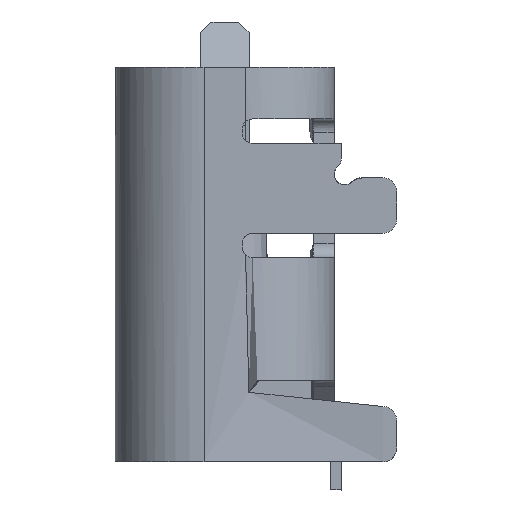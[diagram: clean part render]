
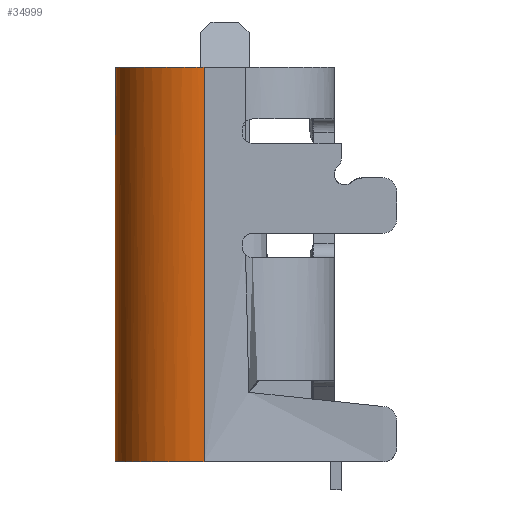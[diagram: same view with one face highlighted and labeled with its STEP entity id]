
A CAD part, left-side view. The second image highlights one B-rep face of the part: STEP entity #34999.
In plain terms, the highlighted free-form (B-spline) face has degree [1, 3] with [2, 4] control points.
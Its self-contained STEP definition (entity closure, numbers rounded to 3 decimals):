
#870 = EDGE_CURVE ( 'NONE', #1981, #31328, #15060, .T. ) ;
#1739 = CARTESIAN_POINT ( 'NONE',  ( 61.445, 1.25, -112.35 ) ) ;
#1981 = VERTEX_POINT ( 'NONE', #23872 ) ;
#2007 = CARTESIAN_POINT ( 'NONE',  ( 61.445, 2., -106.65 ) ) ;
#2282 = CARTESIAN_POINT ( 'NONE',  ( 62.39, 2.497, -106.65 ) ) ;
#2545 = EDGE_LOOP ( 'NONE', ( #20544, #53500, #59929, #29400 ) ) ;
#3932 = EDGE_CURVE ( 'NONE', #23954, #11928, #41296, .T. ) ;
#5102 = EDGE_CURVE ( 'NONE', #31328, #23954, #41783, .T. ) ;
#6470 = CARTESIAN_POINT ( 'NONE',  ( 62.725, 2.53, -106.65 ) ) ;
#9364 = CARTESIAN_POINT ( 'NONE',  ( 61.445, 1.25, -112.35 ) ) ;
#11875 = CARTESIAN_POINT ( 'NONE',  ( 62.725, 2.53, -112.35 ) ) ;
#11928 = VERTEX_POINT ( 'NONE', #51815 ) ;
#13207 = CARTESIAN_POINT ( 'NONE',  ( 61.445, 2., -112.35 ) ) ;
#13825 =( BOUNDED_SURFACE ( )  B_SPLINE_SURFACE ( 1, 3, ( 
 ( #36972, #37594, #13207, #26395 ),
 ( #46927, #45966, #2007, #21571 ) ),
 .UNSPECIFIED., .F., .F., .F. ) 
 B_SPLINE_SURFACE_WITH_KNOTS ( ( 2, 2 ),
 ( 4, 4 ),
 ( 0.019, 0.981 ),
 ( 0., 1. ),
 .UNSPECIFIED. ) 
 GEOMETRIC_REPRESENTATION_ITEM ( )  RATIONAL_B_SPLINE_SURFACE ( (
 ( 1., 0.805, 0.805, 1.),
 ( 1., 0.805, 0.805, 1.) ) ) 
 REPRESENTATION_ITEM ( '' )  SURFACE ( )  );
#15060 = B_SPLINE_CURVE_WITH_KNOTS ( 'NONE', 1,
 ( #43366, #9364 ),
 .UNSPECIFIED., .F., .F.,
 ( 2, 2 ),
 ( 0., 1. ),
 .UNSPECIFIED. ) ;
#16068 = CARTESIAN_POINT ( 'NONE',  ( 61.445, 1.418, -106.65 ) ) ;
#16712 = CARTESIAN_POINT ( 'NONE',  ( 61.607, 1.895, -106.65 ) ) ;
#17387 = FACE_OUTER_BOUND ( 'NONE', #2545, .T. ) ;
#17954 = CARTESIAN_POINT ( 'NONE',  ( 61.939, 2.274, -112.35 ) ) ;
#20544 = ORIENTED_EDGE ( 'NONE', *, *, #5102, .F. ) ;
#20890 = CARTESIAN_POINT ( 'NONE',  ( 62.558, 2.53, -106.65 ) ) ;
#21505 = CARTESIAN_POINT ( 'NONE',  ( 62.081, 2.368, -112.35 ) ) ;
#21571 = CARTESIAN_POINT ( 'NONE',  ( 61.445, 1.25, -106.65 ) ) ;
#23872 = CARTESIAN_POINT ( 'NONE',  ( 61.445, 1.25, -106.65 ) ) ;
#23954 = VERTEX_POINT ( 'NONE', #38100 ) ;
#26395 = CARTESIAN_POINT ( 'NONE',  ( 61.445, 1.25, -112.35 ) ) ;
#29400 = ORIENTED_EDGE ( 'NONE', *, *, #3932, .F. ) ;
#31147 = CARTESIAN_POINT ( 'NONE',  ( 62.558, 2.53, -112.35 ) ) ;
#31328 = VERTEX_POINT ( 'NONE', #1739 ) ;
#32103 = CARTESIAN_POINT ( 'NONE',  ( 62.39, 2.497, -112.35 ) ) ;
#34999 = ADVANCED_FACE ( 'NONE', ( #17387 ), #13825, .F. ) ;
#35991 = CARTESIAN_POINT ( 'NONE',  ( 61.445, 1.25, -106.65 ) ) ;
#36972 = CARTESIAN_POINT ( 'NONE',  ( 62.725, 2.53, -112.35 ) ) ;
#37531 = CARTESIAN_POINT ( 'NONE',  ( 61.607, 1.895, -112.35 ) ) ;
#37594 = CARTESIAN_POINT ( 'NONE',  ( 61.975, 2.53, -112.35 ) ) ;
#38100 = CARTESIAN_POINT ( 'NONE',  ( 62.725, 2.53, -112.35 ) ) ;
#40140 = CARTESIAN_POINT ( 'NONE',  ( 62.081, 2.368, -106.65 ) ) ;
#41296 = B_SPLINE_CURVE_WITH_KNOTS ( 'NONE', 1,
 ( #52990, #49099 ),
 .UNSPECIFIED., .F., .F.,
 ( 2, 2 ),
 ( 0., 1. ),
 .UNSPECIFIED. ) ;
#41405 = CARTESIAN_POINT ( 'NONE',  ( 61.445, 1.418, -112.35 ) ) ;
#41783 = B_SPLINE_CURVE_WITH_KNOTS ( 'NONE', 3,
 ( #55862, #41405, #42351, #37531, #56503, #17954, #21505, #32103, #31147, #11875 ),
 .UNSPECIFIED., .F., .F.,
 ( 4, 2, 2, 2, 4 ),
 ( 0., 0.393, 0.785, 1.178, 1.571 ),
 .UNSPECIFIED. ) ;
#42351 = CARTESIAN_POINT ( 'NONE',  ( 61.479, 1.585, -112.35 ) ) ;
#43366 = CARTESIAN_POINT ( 'NONE',  ( 61.445, 1.25, -106.65 ) ) ;
#43545 = B_SPLINE_CURVE_WITH_KNOTS ( 'NONE', 3,
 ( #6470, #20890, #2282, #40140, #60710, #55246, #16712, #55886, #16068, #35991 ),
 .UNSPECIFIED., .F., .F.,
 ( 4, 2, 2, 2, 4 ),
 ( 0., 0.393, 0.785, 1.178, 1.571 ),
 .UNSPECIFIED. ) ;
#45966 = CARTESIAN_POINT ( 'NONE',  ( 61.975, 2.53, -106.65 ) ) ;
#46927 = CARTESIAN_POINT ( 'NONE',  ( 62.725, 2.53, -106.65 ) ) ;
#49099 = CARTESIAN_POINT ( 'NONE',  ( 62.725, 2.53, -106.65 ) ) ;
#51815 = CARTESIAN_POINT ( 'NONE',  ( 62.725, 2.53, -106.65 ) ) ;
#52990 = CARTESIAN_POINT ( 'NONE',  ( 62.725, 2.53, -112.35 ) ) ;
#53500 = ORIENTED_EDGE ( 'NONE', *, *, #870, .F. ) ;
#55246 = CARTESIAN_POINT ( 'NONE',  ( 61.702, 2.037, -106.65 ) ) ;
#55862 = CARTESIAN_POINT ( 'NONE',  ( 61.445, 1.25, -112.35 ) ) ;
#55886 = CARTESIAN_POINT ( 'NONE',  ( 61.479, 1.585, -106.65 ) ) ;
#56503 = CARTESIAN_POINT ( 'NONE',  ( 61.702, 2.037, -112.35 ) ) ;
#59727 = EDGE_CURVE ( 'NONE', #11928, #1981, #43545, .T. ) ;
#59929 = ORIENTED_EDGE ( 'NONE', *, *, #59727, .F. ) ;
#60710 = CARTESIAN_POINT ( 'NONE',  ( 61.939, 2.274, -106.65 ) ) ;
